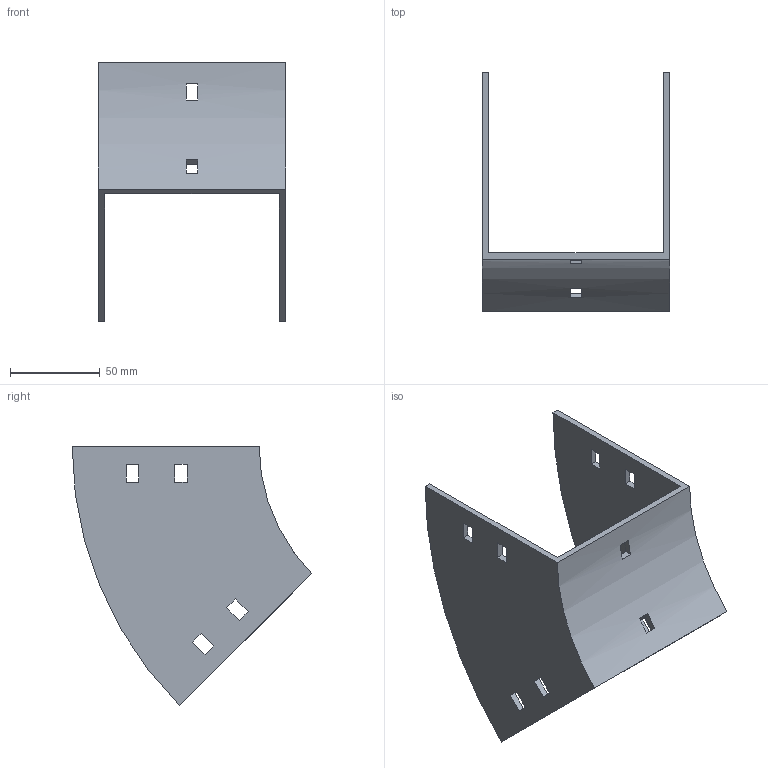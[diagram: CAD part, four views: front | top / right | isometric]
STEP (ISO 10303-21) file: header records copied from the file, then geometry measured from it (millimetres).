
FILE_DESCRIPTION (( 'STEP AP214' ), '1' );
FILE_NAME ('34B1D100.step', '2025-02-21T09:27:16', ( '' ), ( '' ), 'SwSTEP 2.0', 'SolidWorks 2023', '' );
FILE_SCHEMA (( 'AUTOMOTIVE_DESIGN' ));
Length unit declared in the file: millimetre
Products named in the file (1): 34B1D100
Bounding box: 104 x 133.29 x 144.25 mm (x, y, z)
Volume: 111664.8 mm3; surface area: 68227.4 mm2
Topology: 1 solids, 1 shells, 50 faces, 144 edges, 96 vertices
Faces by surface type: plane 46, cylinder 4
Entity records: 1687 total; most frequent: CARTESIAN_POINT 291, ORIENTED_EDGE 288, DIRECTION 262, EDGE_CURVE 144, VECTOR 128, LINE 128, VERTEX_POINT 96, EDGE_LOOP 70
